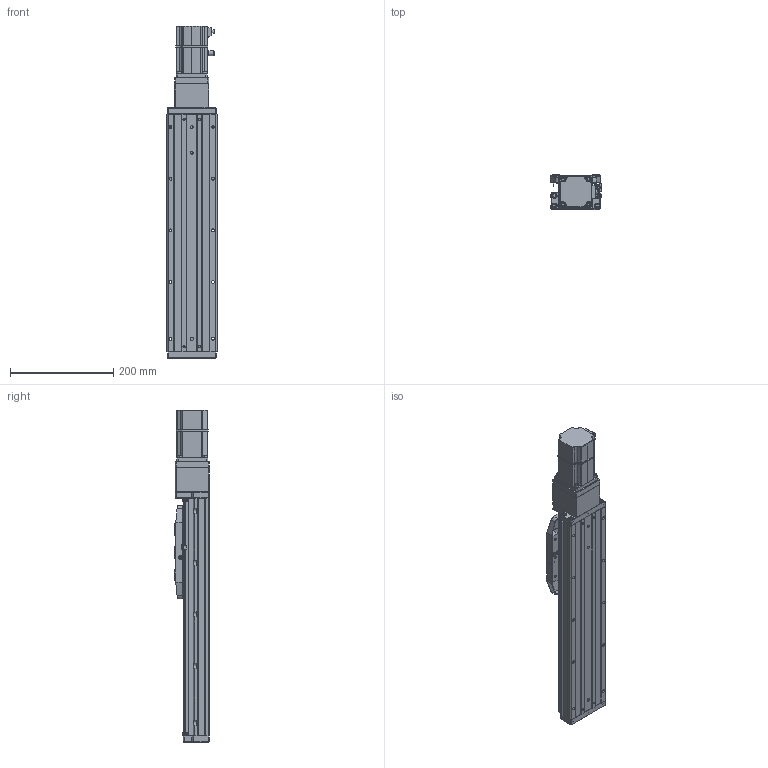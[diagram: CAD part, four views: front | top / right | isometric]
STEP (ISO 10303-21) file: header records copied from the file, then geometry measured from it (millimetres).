
FILE_DESCRIPTION (( 'STEP AP203' ), '1' );
FILE_NAME ('CTHA100-250-BC-M20-C4L.step', '2022-07-06T08:52:01', ( '微软用户' ), ( '微软中国' ), 'SwSTEP 2.0', 'SolidWorks 2020', '' );
FILE_SCHEMA (( 'CONFIG_CONTROL_DESIGN' ));
Length unit declared in the file: millimetre
Products named in the file (20): EE_SX911P_R; _X2_4E0983F1_X0_200W_1; CTHA86-030; CTHA60-017; CTHA86-013; CTHA100-250-BC-M20-C4L; CTHA60-021; CTHA86-027; KTHA100-001_460; GBT77-2000 M3×3; CTHA86-006-1_CTHA86-006-2; KTHA100-004; GBT 70.1-M3℅6; GBT 70.3-M3℅6; KTHA100-005; GBT70.1 M5℅16; CTHA100-002; GB¨uT 70.2-M3¡Á5_M3¡Á6; CTHA60-016; CTHA100-031
Assembly tree (63 placements, depth 2):
  CTHA100-250-BC-M20-C4L
    KTHA100-001_460
    KTHA100-004
    KTHA100-005
    GB¨uT 70.2-M3¡Á5_M3¡Á6  x10
    EE_SX911P_R  x3
    CTHA60-017  x3
    CTHA60-021  x2
    GBT77-2000 M3×3  x6
    GBT 70.1-M3℅6  x6
    GBT70.1 M5℅16  x14
    CTHA60-016  x2
    _X2_4E0983F1_X0_200W_1
    CTHA86-013
    CTHA86-027
    CTHA86-006-1_CTHA86-006-2
    GBT 70.3-M3℅6  x6
    CTHA100-002
    CTHA100-031
    CTHA86-030  x2
Bounding box: 98.82 x 68 x 642.5 mm (x, y, z)
Volume: 2414537.6 mm3; surface area: 444756.7 mm2
Topology: 65 solids, 65 shells, 2579 faces, 6158 edges, 3796 vertices
Faces by surface type: plane 1339, cylinder 667, cone 368, torus 112, bspline 69, sphere 24
Entity records: 43704 total; most frequent: CARTESIAN_POINT 8226, DIRECTION 6821, ORIENTED_EDGE 6588, EDGE_CURVE 3294, AXIS2_PLACEMENT_3D 2327, VECTOR 2167, LINE 2167, VERTEX_POINT 2074
